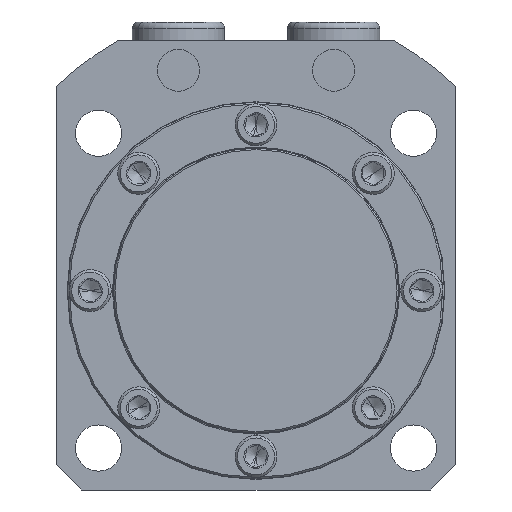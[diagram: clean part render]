
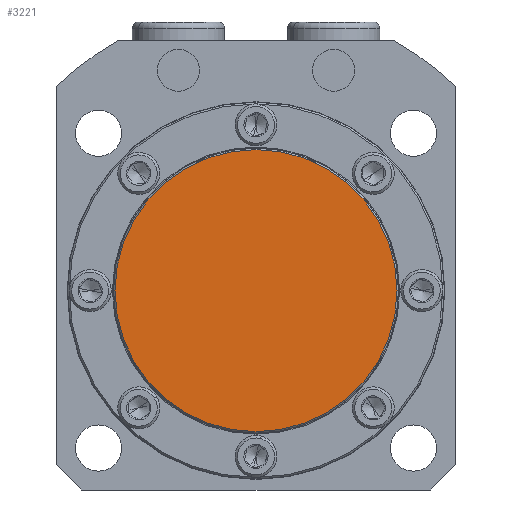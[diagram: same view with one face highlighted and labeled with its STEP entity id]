
A CAD part, front view. The second image highlights one B-rep face of the part: STEP entity #3221.
In plain terms, the highlighted planar face has unit normal (0, -1, 0).
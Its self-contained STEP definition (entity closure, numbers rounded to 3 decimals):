
#401 = CARTESIAN_POINT ( 'NONE',  ( 0., -13., 33.6 ) ) ;
#421 = CARTESIAN_POINT ( 'NONE',  ( 0., -13., -33.6 ) ) ;
#721 = CIRCLE ( 'NONE', #726, 33.6 ) ;
#726 = AXIS2_PLACEMENT_3D ( 'NONE', #5638, #5639, #5640 ) ;
#837 = CIRCLE ( 'NONE', #840, 33.6 ) ;
#840 = AXIS2_PLACEMENT_3D ( 'NONE', #5848, #5849, #5850 ) ;
#2436 = EDGE_LOOP ( 'NONE', ( #4290, #4291 ) ) ;
#3221 = ADVANCED_FACE ( 'NONE', ( #7482 ), #7483, .T. ) ;
#4290 = ORIENTED_EDGE ( 'NONE', *, *, #8022, .T. ) ;
#4291 = ORIENTED_EDGE ( 'NONE', *, *, #7876, .T. ) ;
#5638 = CARTESIAN_POINT ( 'NONE',  ( 0., -13., 0. ) ) ;
#5639 = DIRECTION ( 'NONE',  ( 0., -1., 0. ) ) ;
#5640 = DIRECTION ( 'NONE',  ( 0., 0., -1. ) ) ;
#5848 = CARTESIAN_POINT ( 'NONE',  ( 0., -13., 0. ) ) ;
#5849 = DIRECTION ( 'NONE',  ( 0., -1., 0. ) ) ;
#5850 = DIRECTION ( 'NONE',  ( 0., 0., -1. ) ) ;
#6931 = AXIS2_PLACEMENT_3D ( 'NONE', #7474, #7486, #7487 ) ;
#7205 = VERTEX_POINT ( 'NONE', #401 ) ;
#7225 = VERTEX_POINT ( 'NONE', #421 ) ;
#7474 = CARTESIAN_POINT ( 'NONE',  ( 0., -13., 0. ) ) ;
#7482 = FACE_OUTER_BOUND ( 'NONE', #2436, .T. ) ;
#7483 = PLANE ( 'NONE',  #6931 ) ;
#7486 = DIRECTION ( 'NONE',  ( 0., -1., 0. ) ) ;
#7487 = DIRECTION ( 'NONE',  ( 0., 0., -1. ) ) ;
#7876 = EDGE_CURVE ( 'NONE', #7225, #7205, #721, .T. ) ;
#8022 = EDGE_CURVE ( 'NONE', #7205, #7225, #837, .T. ) ;
